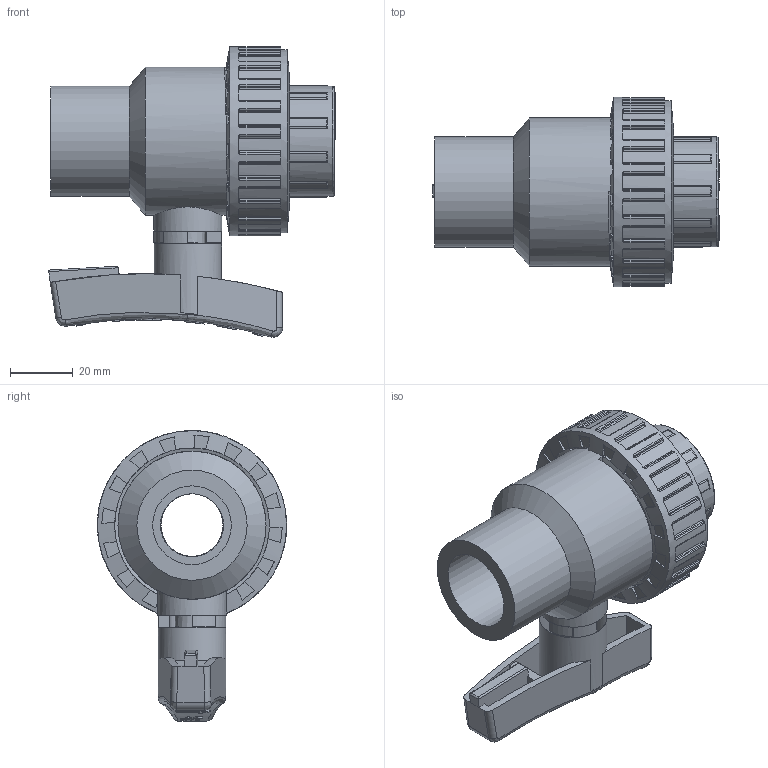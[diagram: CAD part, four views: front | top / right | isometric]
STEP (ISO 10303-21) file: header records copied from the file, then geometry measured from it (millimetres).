
FILE_DESCRIPTION(/* description */ (''),/* implementation_level */ '2;1');
FILE_NAME(/* name */ 'C:\ex desktop\VALVOLE SFERA\BV ACQUA\VALVOLE BVS MM\BVS40\BVS40025\BVS10025_new_handle.stp',/* time_stamp */ '2019-04-17T09:47:22+02:00',/* author */ ('e.sacchi'),/* organization */ (''),/* preprocessor_version */ 'ST-DEVELOPER v16.13',/* originating_system */ 'Autodesk Inventor 2018',/* authorisation */ '');
FILE_SCHEMA (('AUTOMOTIVE_DESIGN { 1 0 10303 214 3 1 1 }'));
Length unit declared in the file: millimetre
Products named in the file (13): BVS10025; CORPO_BVS_10_d_25; ASTA_BVD_40_d_25; SFERA_BVI_10_d_25; LAV2031E; supporto_BVD_40_d_25; LAV2100E; PTFE_BVI_10_d_25; LAV3118E; LAV3100E; COLLARE_BV4_40_D25; GHIERA_BVD_40_d_25; maniglia_BVI_10_d_25
Assembly tree (15 placements, depth 2):
  BVS10025
    CORPO_BVS_10_d_25
    ASTA_BVD_40_d_25
    SFERA_BVI_10_d_25
    LAV2031E  x2
    LAV2100E  x2
    PTFE_BVI_10_d_25  x2
    supporto_BVD_40_d_25
    LAV3118E
    LAV3100E
    COLLARE_BV4_40_D25
    GHIERA_BVD_40_d_25
    maniglia_BVI_10_d_25
Bounding box: 90.94 x 60.1 x 92.33 mm (x, y, z)
Volume: 114788.3 mm3; surface area: 65743.1 mm2
Topology: 16 solids, 16 shells, 1191 faces, 3211 edges, 2111 vertices
Faces by surface type: plane 557, bspline 275, cylinder 274, torus 73, cone 11, sphere 1
Full cylindrical faces by diameter (mm): 10.156 x2, 12 x2, 20 x4, 21.4 x1, 21.7 x1, 24.5 x1, 25 x4, 29 x4, 31 x1, 35 x2, 36 x1, 38 x1, 40 x7, 47 x3, 58.1 x1, 60.1 x1
Entity records: 48667 total; most frequent: CARTESIAN_POINT 20021, ORIENTED_EDGE 6234, DIRECTION 5302, EDGE_CURVE 3117, VERTEX_POINT 2075, AXIS2_PLACEMENT_3D 1841, LINE 1620, VECTOR 1620
